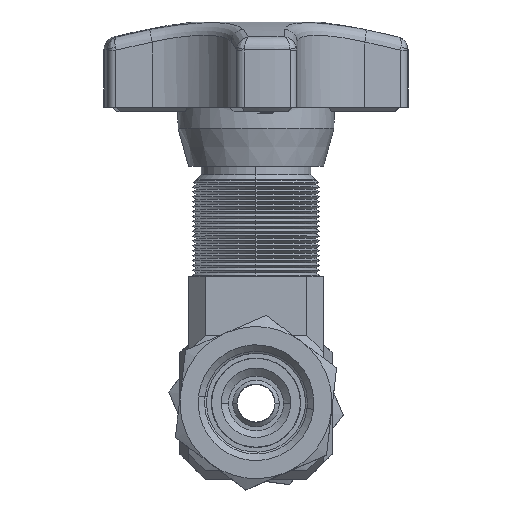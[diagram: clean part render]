
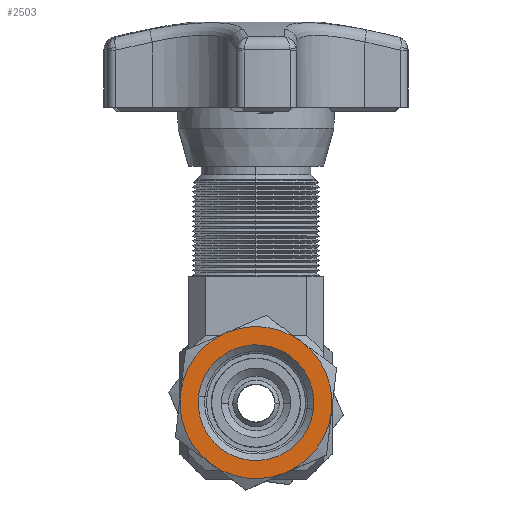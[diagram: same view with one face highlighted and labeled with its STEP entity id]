
A CAD part, top view. The second image highlights one B-rep face of the part: STEP entity #2503.
In plain terms, the highlighted planar face has unit normal (0, 0, 1).
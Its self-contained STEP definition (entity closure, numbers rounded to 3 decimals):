
#626 = DIRECTION ( 'NONE',  ( 0.993, -0.115, 0. ) ) ;
#837 = DIRECTION ( 'NONE',  ( 0.993, -0.115, 0. ) ) ;
#990 = ORIENTED_EDGE ( 'NONE', *, *, #20996, .T. ) ;
#1148 = DIRECTION ( 'NONE',  ( 0.993, -0.115, 0. ) ) ;
#1366 = CIRCLE ( 'NONE', #25651, 6.85 ) ;
#1811 = AXIS2_PLACEMENT_3D ( 'NONE', #26140, #12549, #28432 ) ;
#2024 = CARTESIAN_POINT ( 'NONE',  ( -3.572, 8.261, 8.5 ) ) ;
#2503 = ADVANCED_FACE ( 'NONE', ( #10564, #11290 ), #25424, .T. ) ;
#3922 = CARTESIAN_POINT ( 'NONE',  ( 5.368, 7.224, 8.5 ) ) ;
#4249 = VERTEX_POINT ( 'NONE', #3922 ) ;
#4433 = VERTEX_POINT ( 'NONE', #8418 ) ;
#5335 = AXIS2_PLACEMENT_3D ( 'NONE', #22216, #8662, #24506 ) ;
#5770 = CARTESIAN_POINT ( 'NONE',  ( 0., 0., 8.5 ) ) ;
#5898 = CARTESIAN_POINT ( 'NONE',  ( 0., 0., 8.5 ) ) ;
#6001 = CIRCLE ( 'NONE', #15347, 9. ) ;
#6173 = CARTESIAN_POINT ( 'NONE',  ( 0., 0., 8.5 ) ) ;
#7069 = AXIS2_PLACEMENT_3D ( 'NONE', #28042, #14456, #837 ) ;
#7504 = ORIENTED_EDGE ( 'NONE', *, *, #26332, .T. ) ;
#8054 = DIRECTION ( 'NONE',  ( 0.993, -0.115, 0. ) ) ;
#8097 = EDGE_CURVE ( 'NONE', #23806, #20376, #8414, .T. ) ;
#8178 = DIRECTION ( 'NONE',  ( 0.993, -0.115, 0. ) ) ;
#8228 = ORIENTED_EDGE ( 'NONE', *, *, #11906, .T. ) ;
#8346 = CIRCLE ( 'NONE', #7069, 9. ) ;
#8414 = CIRCLE ( 'NONE', #13916, 9. ) ;
#8418 = CARTESIAN_POINT ( 'NONE',  ( 6.804, -0.789, 8.5 ) ) ;
#8472 = DIRECTION ( 'NONE',  ( 0.993, -0.115, 0. ) ) ;
#8662 = DIRECTION ( 'NONE',  ( 0., 0., 1. ) ) ;
#9154 = ORIENTED_EDGE ( 'NONE', *, *, #20479, .T. ) ;
#9905 = CIRCLE ( 'NONE', #5335, 6.85 ) ;
#10564 = FACE_OUTER_BOUND ( 'NONE', #28284, .T. ) ;
#11079 = DIRECTION ( 'NONE',  ( 0., 0., 1. ) ) ;
#11290 = FACE_BOUND ( 'NONE', #16419, .T. ) ;
#11906 = EDGE_CURVE ( 'NONE', #22797, #23806, #25970, .T. ) ;
#12168 = CARTESIAN_POINT ( 'NONE',  ( 8.94, -1.037, 8.5 ) ) ;
#12549 = DIRECTION ( 'NONE',  ( 0., 0., 1. ) ) ;
#13025 = EDGE_CURVE ( 'NONE', #27353, #4433, #1366, .T. ) ;
#13090 = EDGE_CURVE ( 'NONE', #4433, #27353, #9905, .T. ) ;
#13916 = AXIS2_PLACEMENT_3D ( 'NONE', #28358, #14771, #1148 ) ;
#14221 = DIRECTION ( 'NONE',  ( 0., 0., 1. ) ) ;
#14456 = DIRECTION ( 'NONE',  ( 0., 0., 1. ) ) ;
#14771 = DIRECTION ( 'NONE',  ( 0., 0., 1. ) ) ;
#15031 = ORIENTED_EDGE ( 'NONE', *, *, #13025, .F. ) ;
#15083 = ORIENTED_EDGE ( 'NONE', *, *, #23376, .T. ) ;
#15347 = AXIS2_PLACEMENT_3D ( 'NONE', #5898, #21737, #8178 ) ;
#16419 = EDGE_LOOP ( 'NONE', ( #18092, #15031 ) ) ;
#16829 = AXIS2_PLACEMENT_3D ( 'NONE', #5770, #21614, #8054 ) ;
#16921 = VERTEX_POINT ( 'NONE', #19771 ) ;
#17041 = AXIS2_PLACEMENT_3D ( 'NONE', #24653, #11079, #26937 ) ;
#18092 = ORIENTED_EDGE ( 'NONE', *, *, #13090, .F. ) ;
#19504 = CARTESIAN_POINT ( 'NONE',  ( 3.572, -8.261, 8.5 ) ) ;
#19771 = CARTESIAN_POINT ( 'NONE',  ( -8.94, 1.037, 8.5 ) ) ;
#20245 = ORIENTED_EDGE ( 'NONE', *, *, #8097, .T. ) ;
#20376 = VERTEX_POINT ( 'NONE', #12168 ) ;
#20479 = EDGE_CURVE ( 'NONE', #20633, #16921, #27000, .T. ) ;
#20633 = VERTEX_POINT ( 'NONE', #2024 ) ;
#20996 = EDGE_CURVE ( 'NONE', #4249, #20633, #6001, .T. ) ;
#21370 = CIRCLE ( 'NONE', #16829, 9. ) ;
#21614 = DIRECTION ( 'NONE',  ( 0., 0., 1. ) ) ;
#21737 = DIRECTION ( 'NONE',  ( 0., 0., 1. ) ) ;
#22011 = DIRECTION ( 'NONE',  ( 0., 0., 1. ) ) ;
#22216 = CARTESIAN_POINT ( 'NONE',  ( 0., 0., 8.5 ) ) ;
#22797 = VERTEX_POINT ( 'NONE', #24824 ) ;
#23376 = EDGE_CURVE ( 'NONE', #16921, #22797, #21370, .T. ) ;
#23806 = VERTEX_POINT ( 'NONE', #19504 ) ;
#24506 = DIRECTION ( 'NONE',  ( 0.993, -0.115, 0. ) ) ;
#24653 = CARTESIAN_POINT ( 'NONE',  ( 0., 0., 8.5 ) ) ;
#24824 = CARTESIAN_POINT ( 'NONE',  ( -5.368, -7.224, 8.5 ) ) ;
#25424 = PLANE ( 'NONE',  #29257 ) ;
#25651 = AXIS2_PLACEMENT_3D ( 'NONE', #6173, #22011, #8472 ) ;
#25970 = CIRCLE ( 'NONE', #17041, 9. ) ;
#26140 = CARTESIAN_POINT ( 'NONE',  ( 0., 0., 8.5 ) ) ;
#26332 = EDGE_CURVE ( 'NONE', #20376, #4249, #8346, .T. ) ;
#26937 = DIRECTION ( 'NONE',  ( 0.993, -0.115, 0. ) ) ;
#27000 = CIRCLE ( 'NONE', #1811, 9. ) ;
#27353 = VERTEX_POINT ( 'NONE', #27987 ) ;
#27828 = CARTESIAN_POINT ( 'NONE',  ( -0.789, -6.804, 8.5 ) ) ;
#27987 = CARTESIAN_POINT ( 'NONE',  ( -6.804, 0.789, 8.5 ) ) ;
#28042 = CARTESIAN_POINT ( 'NONE',  ( 0., 0., 8.5 ) ) ;
#28284 = EDGE_LOOP ( 'NONE', ( #7504, #990, #9154, #15083, #8228, #20245 ) ) ;
#28358 = CARTESIAN_POINT ( 'NONE',  ( 0., 0., 8.5 ) ) ;
#28432 = DIRECTION ( 'NONE',  ( 0.993, -0.115, 0. ) ) ;
#29257 = AXIS2_PLACEMENT_3D ( 'NONE', #27828, #14221, #626 ) ;
